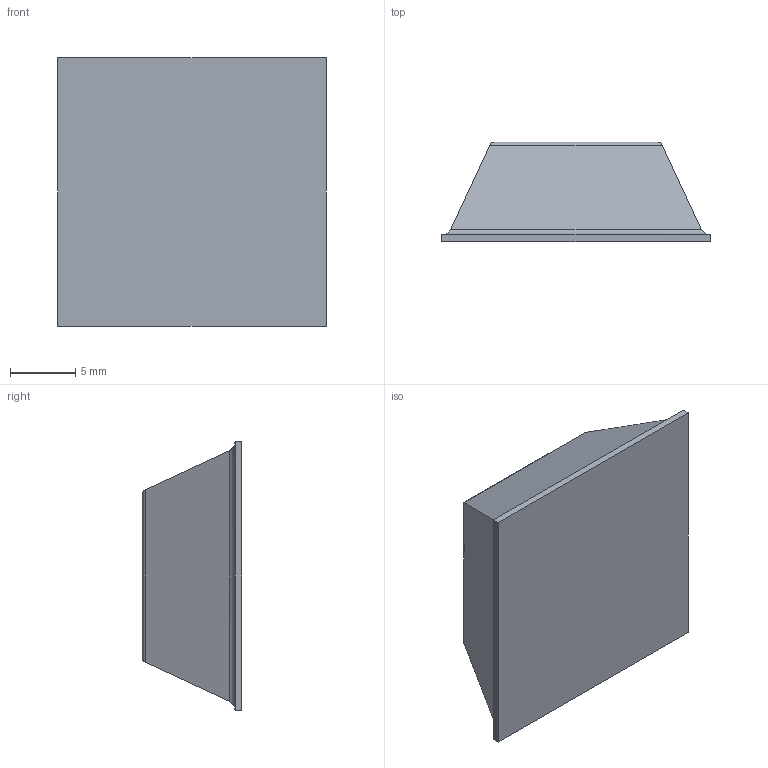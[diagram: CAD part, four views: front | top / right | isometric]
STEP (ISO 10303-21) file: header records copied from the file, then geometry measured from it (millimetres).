
FILE_DESCRIPTION((''),'2;1');
FILE_NAME('C:\Users\Administrator\Desktop\3803 Bumpons\square\SJxx23.stp','2010-11-12T15:38:42',('Administrator'),(''),'Autodesk Inventor 2011','Autodesk Inventor 2011','');
FILE_SCHEMA(('AUTOMOTIVE_DESIGN { 1 0 10303 214 1 1 1 1 }'));
Length unit declared in the file: inch
Products named in the file (1): SJxx23
Bounding box: 20.62 x 7.62 x 20.62 mm (x, y, z)
Volume: 2143.1 mm3; surface area: 1177.7 mm2
Topology: 1 solids, 1 shells, 18 faces, 36 edges, 20 vertices
Faces by surface type: plane 10, cylinder 8
Entity records: 480 total; most frequent: DIRECTION 82, CARTESIAN_POINT 75, ORIENTED_EDGE 72, EDGE_CURVE 36, VECTOR 28, LINE 28, AXIS2_PLACEMENT_3D 27, VERTEX_POINT 20
